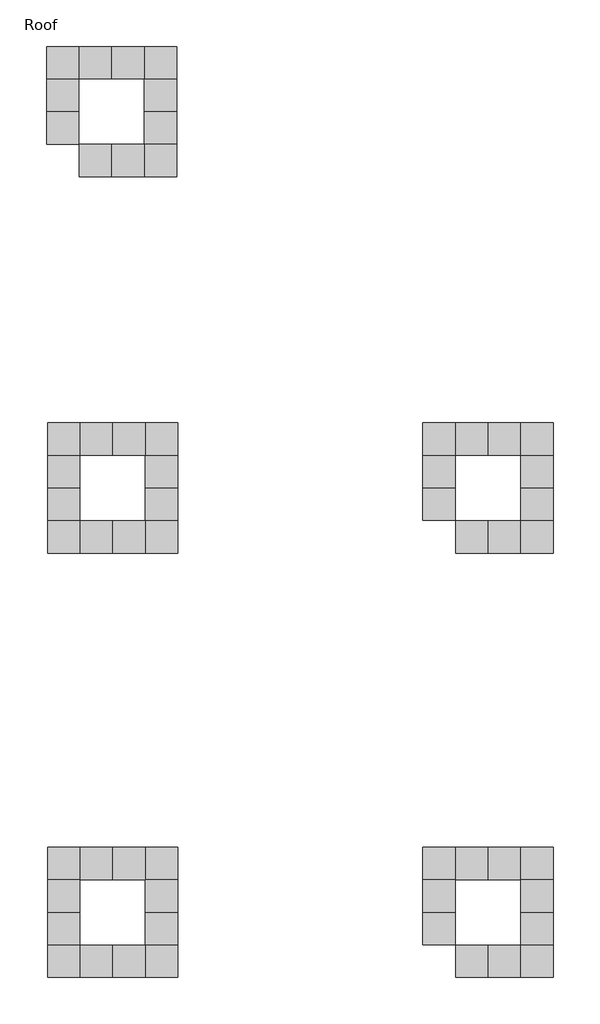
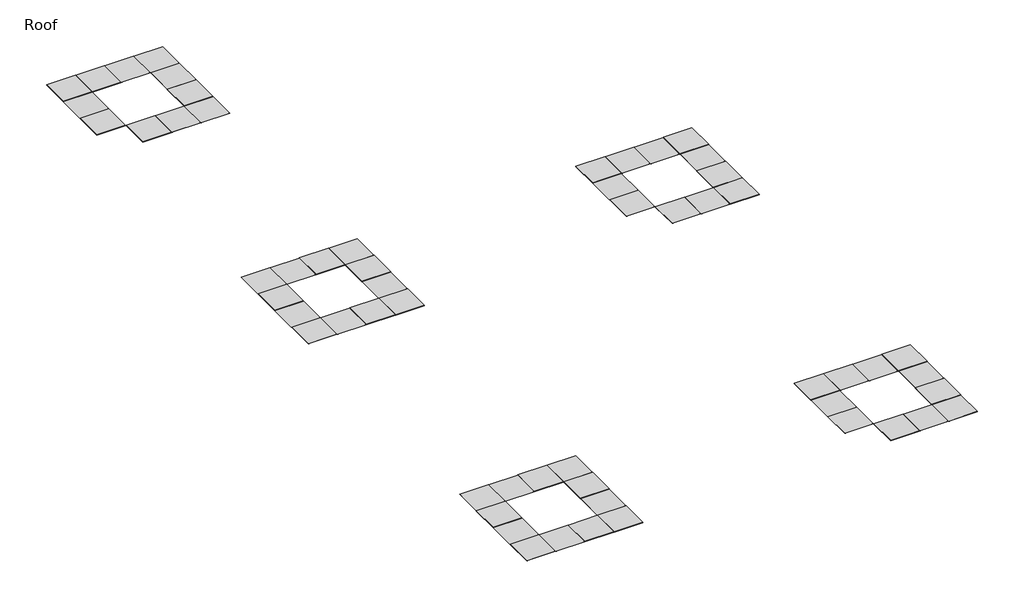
# One storey, incomplete: 57 plates.
"""IFC4 building model written with IfcOpenShell, lengths in millimetres."""

from ifc_helpers import new_model, si_unit, origin, place, context, project, spatial, transform, mapped, element, save
from components import plate_562299b5

model = new_model("IFC4")

# Units and contexts
model_context = context("Model", 3, world=origin())
ifc_project = project(units=[si_unit("LENGTHUNIT", "METRE", prefix="MILLI")], contexts=[model_context])

# Site, building, storey
site = spatial("IfcSite", under=ifc_project)
building = spatial("IfcBuilding", under=site)
storey = spatial("IfcBuildingStorey", under=building, Name="Roof", Elevation=6096.0)

# Plates
placement = place(None, origin())
plate_shape = plate_562299b5(model_context)
element("IfcPlate", 1, ObjectType="Construction_Ceilings_Qwel-Tiles_Flat-Molded-Acoustic-Ceiling-Tiles : Flat Tile (Charcoal Heather)", at=placement, inside=storey, context=model_context, shape_type="MappedRepresentation", body=[
    mapped(plate_shape, transform((-3026.0328018, 9535.9784964, 6096.0), x_axis=(1.0, 0.0, 0.0), y_axis=(0.0, 0.0, -1.0), z_axis=(0.0, 1.0, 0.0))),
])
element("IfcPlate", 2, ObjectType="Construction_Ceilings_Qwel-Tiles_Flat-Molded-Acoustic-Ceiling-Tiles : Flat Tile (Charcoal Heather)", at=placement, inside=storey, context=model_context, shape_type="MappedRepresentation", body=[
    mapped(plate_shape, transform((-2416.4328018, 9535.9784964, 6096.0), x_axis=(1.0, 0.0, 0.0), y_axis=(0.0, 0.0, -1.0), z_axis=(0.0, 1.0, 0.0))),
])
element("IfcPlate", 3, ObjectType="Construction_Ceilings_Qwel-Tiles_Flat-Molded-Acoustic-Ceiling-Tiles : Flat Tile (Charcoal Heather)", at=placement, inside=storey, context=model_context, shape_type="MappedRepresentation", body=[
    mapped(plate_shape, transform((-1806.8328019, 9535.9784964, 6096.0), x_axis=(1.0, 0.0, 0.0), y_axis=(0.0, 0.0, -1.0), z_axis=(0.0, 1.0, 0.0))),
])
element("IfcPlate", 4, ObjectType="Construction_Ceilings_Qwel-Tiles_Flat-Molded-Acoustic-Ceiling-Tiles : Flat Tile (Charcoal Heather)", at=placement, inside=storey, context=model_context, shape_type="MappedRepresentation", body=[
    mapped(plate_shape, transform((-3635.6328019, 10145.5784964, 6096.0), x_axis=(1.0, 0.0, 0.0), y_axis=(0.0, 0.0, -1.0), z_axis=(0.0, 1.0, 0.0))),
])
element("IfcPlate", 5, ObjectType="Construction_Ceilings_Qwel-Tiles_Flat-Molded-Acoustic-Ceiling-Tiles : Flat Tile (Charcoal Heather)", at=placement, inside=storey, context=model_context, shape_type="MappedRepresentation", body=[
    mapped(plate_shape, transform((-1806.8328019, 10145.5784964, 6096.0), x_axis=(1.0, 0.0, 0.0), y_axis=(0.0, 0.0, -1.0), z_axis=(0.0, 1.0, 0.0))),
])
element("IfcPlate", 6, ObjectType="Construction_Ceilings_Qwel-Tiles_Flat-Molded-Acoustic-Ceiling-Tiles : Flat Tile (Charcoal Heather)", at=placement, inside=storey, context=model_context, shape_type="MappedRepresentation", body=[
    mapped(plate_shape, transform((-3635.6328019, 10755.1784964, 6096.0), x_axis=(1.0, 0.0, 0.0), y_axis=(0.0, 0.0, -1.0), z_axis=(0.0, 1.0, 0.0))),
])
element("IfcPlate", 7, ObjectType="Construction_Ceilings_Qwel-Tiles_Flat-Molded-Acoustic-Ceiling-Tiles : Flat Tile (Charcoal Heather)", at=placement, inside=storey, context=model_context, shape_type="MappedRepresentation", body=[
    mapped(plate_shape, transform((-1806.8328019, 10755.1784964, 6096.0), x_axis=(1.0, 0.0, 0.0), y_axis=(0.0, 0.0, -1.0), z_axis=(0.0, 1.0, 0.0))),
])
element("IfcPlate", 8, ObjectType="Construction_Ceilings_Qwel-Tiles_Flat-Molded-Acoustic-Ceiling-Tiles : Flat Tile (Charcoal Heather)", at=placement, inside=storey, context=model_context, shape_type="MappedRepresentation", body=[
    mapped(plate_shape, transform((-3635.6328019, 11364.7784964, 6096.0), x_axis=(1.0, 0.0, 0.0), y_axis=(0.0, 0.0, -1.0), z_axis=(0.0, 1.0, 0.0))),
])
element("IfcPlate", 9, ObjectType="Construction_Ceilings_Qwel-Tiles_Flat-Molded-Acoustic-Ceiling-Tiles : Flat Tile (Charcoal Heather)", at=placement, inside=storey, context=model_context, shape_type="MappedRepresentation", body=[
    mapped(plate_shape, transform((-3026.0328018, 11364.7784964, 6096.0), x_axis=(1.0, 0.0, 0.0), y_axis=(0.0, 0.0, -1.0), z_axis=(0.0, 1.0, 0.0))),
])
element("IfcPlate", 10, ObjectType="Construction_Ceilings_Qwel-Tiles_Flat-Molded-Acoustic-Ceiling-Tiles : Flat Tile (Charcoal Heather)", at=placement, inside=storey, context=model_context, shape_type="MappedRepresentation", body=[
    mapped(plate_shape, transform((-2416.4328018, 11364.7784964, 6096.0), x_axis=(1.0, 0.0, 0.0), y_axis=(0.0, 0.0, -1.0), z_axis=(0.0, 1.0, 0.0))),
])
element("IfcPlate", 11, ObjectType="Construction_Ceilings_Qwel-Tiles_Flat-Molded-Acoustic-Ceiling-Tiles : Flat Tile (Charcoal Heather)", at=placement, inside=storey, context=model_context, shape_type="MappedRepresentation", body=[
    mapped(plate_shape, transform((-1806.8328019, 11364.7784964, 6096.0), x_axis=(1.0, 0.0, 0.0), y_axis=(0.0, 0.0, -1.0), z_axis=(0.0, 1.0, 0.0))),
])
element("IfcPlate", 12, ObjectType="Construction_Ceilings_Qwel-Tiles_Flat-Molded-Acoustic-Ceiling-Tiles : Flat Tile (Light Grey Heather)", at=placement, inside=storey, context=model_context, shape_type="MappedRepresentation", body=[
    mapped(plate_shape, transform((-10646.0328019, 9535.9784964, 6096.0), x_axis=(1.0, 0.0, 0.0), y_axis=(0.0, 0.0, -1.0), z_axis=(0.0, 1.0, 0.0))),
])
element("IfcPlate", 13, ObjectType="Construction_Ceilings_Qwel-Tiles_Flat-Molded-Acoustic-Ceiling-Tiles : Flat Tile (Light Grey Heather)", at=placement, inside=storey, context=model_context, shape_type="MappedRepresentation", body=[
    mapped(plate_shape, transform((-10036.4328018, 9535.9784964, 6096.0), x_axis=(1.0, 0.0, 0.0), y_axis=(0.0, 0.0, -1.0), z_axis=(0.0, 1.0, 0.0))),
])
element("IfcPlate", 14, ObjectType="Construction_Ceilings_Qwel-Tiles_Flat-Molded-Acoustic-Ceiling-Tiles : Flat Tile (Light Grey Heather)", at=placement, inside=storey, context=model_context, shape_type="MappedRepresentation", body=[
    mapped(plate_shape, transform((-9426.8328018, 9535.9784964, 6096.0), x_axis=(1.0, 0.0, 0.0), y_axis=(0.0, 0.0, -1.0), z_axis=(0.0, 1.0, 0.0))),
])
element("IfcPlate", 15, ObjectType="Construction_Ceilings_Qwel-Tiles_Flat-Molded-Acoustic-Ceiling-Tiles : Flat Tile (Light Grey Heather)", at=placement, inside=storey, context=model_context, shape_type="MappedRepresentation", body=[
    mapped(plate_shape, transform((-8817.2328019, 9535.9784964, 6096.0), x_axis=(1.0, 0.0, 0.0), y_axis=(0.0, 0.0, -1.0), z_axis=(0.0, 1.0, 0.0))),
])
element("IfcPlate", 16, ObjectType="Construction_Ceilings_Qwel-Tiles_Flat-Molded-Acoustic-Ceiling-Tiles : Flat Tile (Light Grey Heather)", at=placement, inside=storey, context=model_context, shape_type="MappedRepresentation", body=[
    mapped(plate_shape, transform((-10646.0328019, 10145.5784964, 6096.0), x_axis=(1.0, 0.0, 0.0), y_axis=(0.0, 0.0, -1.0), z_axis=(0.0, 1.0, 0.0))),
])
element("IfcPlate", 17, ObjectType="Construction_Ceilings_Qwel-Tiles_Flat-Molded-Acoustic-Ceiling-Tiles : Flat Tile (Light Grey Heather)", at=placement, inside=storey, context=model_context, shape_type="MappedRepresentation", body=[
    mapped(plate_shape, transform((-8817.2328019, 10145.5784964, 6096.0), x_axis=(1.0, 0.0, 0.0), y_axis=(0.0, 0.0, -1.0), z_axis=(0.0, 1.0, 0.0))),
])
element("IfcPlate", 18, ObjectType="Construction_Ceilings_Qwel-Tiles_Flat-Molded-Acoustic-Ceiling-Tiles : Flat Tile (Light Grey Heather)", at=placement, inside=storey, context=model_context, shape_type="MappedRepresentation", body=[
    mapped(plate_shape, transform((-10646.0328019, 10755.1784964, 6096.0), x_axis=(1.0, 0.0, 0.0), y_axis=(0.0, 0.0, -1.0), z_axis=(0.0, 1.0, 0.0))),
])
element("IfcPlate", 19, ObjectType="Construction_Ceilings_Qwel-Tiles_Flat-Molded-Acoustic-Ceiling-Tiles : Flat Tile (Light Grey Heather)", at=placement, inside=storey, context=model_context, shape_type="MappedRepresentation", body=[
    mapped(plate_shape, transform((-8817.2328019, 10755.1784964, 6096.0), x_axis=(1.0, 0.0, 0.0), y_axis=(0.0, 0.0, -1.0), z_axis=(0.0, 1.0, 0.0))),
])
element("IfcPlate", 20, ObjectType="Construction_Ceilings_Qwel-Tiles_Flat-Molded-Acoustic-Ceiling-Tiles : Flat Tile (Light Grey Heather)", at=placement, inside=storey, context=model_context, shape_type="MappedRepresentation", body=[
    mapped(plate_shape, transform((-10646.0328019, 11364.7784964, 6096.0), x_axis=(1.0, 0.0, 0.0), y_axis=(0.0, 0.0, -1.0), z_axis=(0.0, 1.0, 0.0))),
])
element("IfcPlate", 21, ObjectType="Construction_Ceilings_Qwel-Tiles_Flat-Molded-Acoustic-Ceiling-Tiles : Flat Tile (Light Grey Heather)", at=placement, inside=storey, context=model_context, shape_type="MappedRepresentation", body=[
    mapped(plate_shape, transform((-10036.4328018, 11364.7784964, 6096.0), x_axis=(1.0, 0.0, 0.0), y_axis=(0.0, 0.0, -1.0), z_axis=(0.0, 1.0, 0.0))),
])
element("IfcPlate", 22, ObjectType="Construction_Ceilings_Qwel-Tiles_Flat-Molded-Acoustic-Ceiling-Tiles : Flat Tile (Light Grey Heather)", at=placement, inside=storey, context=model_context, shape_type="MappedRepresentation", body=[
    mapped(plate_shape, transform((-9426.8328018, 11364.7784964, 6096.0), x_axis=(1.0, 0.0, 0.0), y_axis=(0.0, 0.0, -1.0), z_axis=(0.0, 1.0, 0.0))),
])
element("IfcPlate", 23, ObjectType="Construction_Ceilings_Qwel-Tiles_Flat-Molded-Acoustic-Ceiling-Tiles : Flat Tile (Light Grey Heather)", at=placement, inside=storey, context=model_context, shape_type="MappedRepresentation", body=[
    mapped(plate_shape, transform((-8817.2328019, 11364.7784964, 6096.0), x_axis=(1.0, 0.0, 0.0), y_axis=(0.0, 0.0, -1.0), z_axis=(0.0, 1.0, 0.0))),
])
element("IfcPlate", 24, ObjectType="Construction_Ceilings_Qwel-Tiles_Flat-Molded-Acoustic-Ceiling-Tiles : Flat Tile (Sandstone Heather)", at=placement, inside=storey, context=model_context, shape_type="MappedRepresentation", body=[
    mapped(plate_shape, transform((-3026.0328018, 1611.1784964, 6096.0), x_axis=(1.0, 0.0, 0.0), y_axis=(0.0, 0.0, -1.0), z_axis=(0.0, 1.0, 0.0))),
])
element("IfcPlate", 25, ObjectType="Construction_Ceilings_Qwel-Tiles_Flat-Molded-Acoustic-Ceiling-Tiles : Flat Tile (Sandstone Heather)", at=placement, inside=storey, context=model_context, shape_type="MappedRepresentation", body=[
    mapped(plate_shape, transform((-2416.4328018, 1611.1784964, 6096.0), x_axis=(1.0, 0.0, 0.0), y_axis=(0.0, 0.0, -1.0), z_axis=(0.0, 1.0, 0.0))),
])
element("IfcPlate", 26, ObjectType="Construction_Ceilings_Qwel-Tiles_Flat-Molded-Acoustic-Ceiling-Tiles : Flat Tile (Sandstone Heather)", at=placement, inside=storey, context=model_context, shape_type="MappedRepresentation", body=[
    mapped(plate_shape, transform((-1806.8328019, 1611.1784964, 6096.0), x_axis=(1.0, 0.0, 0.0), y_axis=(0.0, 0.0, -1.0), z_axis=(0.0, 1.0, 0.0))),
])
element("IfcPlate", 27, ObjectType="Construction_Ceilings_Qwel-Tiles_Flat-Molded-Acoustic-Ceiling-Tiles : Flat Tile (Sandstone Heather)", at=placement, inside=storey, context=model_context, shape_type="MappedRepresentation", body=[
    mapped(plate_shape, transform((-3635.6328019, 2220.7784964, 6096.0), x_axis=(1.0, 0.0, 0.0), y_axis=(0.0, 0.0, -1.0), z_axis=(0.0, 1.0, 0.0))),
])
element("IfcPlate", 28, ObjectType="Construction_Ceilings_Qwel-Tiles_Flat-Molded-Acoustic-Ceiling-Tiles : Flat Tile (Sandstone Heather)", at=placement, inside=storey, context=model_context, shape_type="MappedRepresentation", body=[
    mapped(plate_shape, transform((-1806.8328019, 2220.7784964, 6096.0), x_axis=(1.0, 0.0, 0.0), y_axis=(0.0, 0.0, -1.0), z_axis=(0.0, 1.0, 0.0))),
])
element("IfcPlate", 29, ObjectType="Construction_Ceilings_Qwel-Tiles_Flat-Molded-Acoustic-Ceiling-Tiles : Flat Tile (Sandstone Heather)", at=placement, inside=storey, context=model_context, shape_type="MappedRepresentation", body=[
    mapped(plate_shape, transform((-3635.6328019, 2830.3784964, 6096.0), x_axis=(1.0, 0.0, 0.0), y_axis=(0.0, 0.0, -1.0), z_axis=(0.0, 1.0, 0.0))),
])
element("IfcPlate", 30, ObjectType="Construction_Ceilings_Qwel-Tiles_Flat-Molded-Acoustic-Ceiling-Tiles : Flat Tile (Sandstone Heather)", at=placement, inside=storey, context=model_context, shape_type="MappedRepresentation", body=[
    mapped(plate_shape, transform((-1806.8328019, 2830.3784964, 6096.0), x_axis=(1.0, 0.0, 0.0), y_axis=(0.0, 0.0, -1.0), z_axis=(0.0, 1.0, 0.0))),
])
element("IfcPlate", 31, ObjectType="Construction_Ceilings_Qwel-Tiles_Flat-Molded-Acoustic-Ceiling-Tiles : Flat Tile (Sandstone Heather)", at=placement, inside=storey, context=model_context, shape_type="MappedRepresentation", body=[
    mapped(plate_shape, transform((-3635.6328019, 3439.9784964, 6096.0), x_axis=(1.0, 0.0, 0.0), y_axis=(0.0, 0.0, -1.0), z_axis=(0.0, 1.0, 0.0))),
])
element("IfcPlate", 32, ObjectType="Construction_Ceilings_Qwel-Tiles_Flat-Molded-Acoustic-Ceiling-Tiles : Flat Tile (Sandstone Heather)", at=placement, inside=storey, context=model_context, shape_type="MappedRepresentation", body=[
    mapped(plate_shape, transform((-3026.0328018, 3439.9784964, 6096.0), x_axis=(1.0, 0.0, 0.0), y_axis=(0.0, 0.0, -1.0), z_axis=(0.0, 1.0, 0.0))),
])
element("IfcPlate", 33, ObjectType="Construction_Ceilings_Qwel-Tiles_Flat-Molded-Acoustic-Ceiling-Tiles : Flat Tile (Sandstone Heather)", at=placement, inside=storey, context=model_context, shape_type="MappedRepresentation", body=[
    mapped(plate_shape, transform((-2416.4328018, 3439.9784964, 6096.0), x_axis=(1.0, 0.0, 0.0), y_axis=(0.0, 0.0, -1.0), z_axis=(0.0, 1.0, 0.0))),
])
element("IfcPlate", 34, ObjectType="Construction_Ceilings_Qwel-Tiles_Flat-Molded-Acoustic-Ceiling-Tiles : Flat Tile (Sandstone Heather)", at=placement, inside=storey, context=model_context, shape_type="MappedRepresentation", body=[
    mapped(plate_shape, transform((-1806.8328019, 3439.9784964, 6096.0), x_axis=(1.0, 0.0, 0.0), y_axis=(0.0, 0.0, -1.0), z_axis=(0.0, 1.0, 0.0))),
])
element("IfcPlate", 35, ObjectType="Construction_Ceilings_Qwel-Tiles_Flat-Molded-Acoustic-Ceiling-Tiles : Flat Tile (Light Brown)", at=placement, inside=storey, context=model_context, shape_type="MappedRepresentation", body=[
    mapped(plate_shape, transform((-10646.0328019, 1611.1784964, 6096.0), x_axis=(1.0, 0.0, 0.0), y_axis=(0.0, 0.0, -1.0), z_axis=(0.0, 1.0, 0.0))),
])
element("IfcPlate", 36, ObjectType="Construction_Ceilings_Qwel-Tiles_Flat-Molded-Acoustic-Ceiling-Tiles : Flat Tile (Light Brown)", at=placement, inside=storey, context=model_context, shape_type="MappedRepresentation", body=[
    mapped(plate_shape, transform((-10036.4328018, 1611.1784964, 6096.0), x_axis=(1.0, 0.0, 0.0), y_axis=(0.0, 0.0, -1.0), z_axis=(0.0, 1.0, 0.0))),
])
element("IfcPlate", 37, ObjectType="Construction_Ceilings_Qwel-Tiles_Flat-Molded-Acoustic-Ceiling-Tiles : Flat Tile (Light Brown)", at=placement, inside=storey, context=model_context, shape_type="MappedRepresentation", body=[
    mapped(plate_shape, transform((-9426.8328018, 1611.1784964, 6096.0), x_axis=(1.0, 0.0, 0.0), y_axis=(0.0, 0.0, -1.0), z_axis=(0.0, 1.0, 0.0))),
])
element("IfcPlate", 38, ObjectType="Construction_Ceilings_Qwel-Tiles_Flat-Molded-Acoustic-Ceiling-Tiles : Flat Tile (Light Brown)", at=placement, inside=storey, context=model_context, shape_type="MappedRepresentation", body=[
    mapped(plate_shape, transform((-8817.2328019, 1611.1784964, 6096.0), x_axis=(1.0, 0.0, 0.0), y_axis=(0.0, 0.0, -1.0), z_axis=(0.0, 1.0, 0.0))),
])
element("IfcPlate", 39, ObjectType="Construction_Ceilings_Qwel-Tiles_Flat-Molded-Acoustic-Ceiling-Tiles : Flat Tile (Light Brown)", at=placement, inside=storey, context=model_context, shape_type="MappedRepresentation", body=[
    mapped(plate_shape, transform((-10646.0328019, 2220.7784964, 6096.0), x_axis=(1.0, 0.0, 0.0), y_axis=(0.0, 0.0, -1.0), z_axis=(0.0, 1.0, 0.0))),
])
element("IfcPlate", 40, ObjectType="Construction_Ceilings_Qwel-Tiles_Flat-Molded-Acoustic-Ceiling-Tiles : Flat Tile (Light Brown)", at=placement, inside=storey, context=model_context, shape_type="MappedRepresentation", body=[
    mapped(plate_shape, transform((-8817.2328019, 2220.7784964, 6096.0), x_axis=(1.0, 0.0, 0.0), y_axis=(0.0, 0.0, -1.0), z_axis=(0.0, 1.0, 0.0))),
])
element("IfcPlate", 41, ObjectType="Construction_Ceilings_Qwel-Tiles_Flat-Molded-Acoustic-Ceiling-Tiles : Flat Tile (Light Brown)", at=placement, inside=storey, context=model_context, shape_type="MappedRepresentation", body=[
    mapped(plate_shape, transform((-10646.0328019, 2830.3784964, 6096.0), x_axis=(1.0, 0.0, 0.0), y_axis=(0.0, 0.0, -1.0), z_axis=(0.0, 1.0, 0.0))),
])
element("IfcPlate", 42, ObjectType="Construction_Ceilings_Qwel-Tiles_Flat-Molded-Acoustic-Ceiling-Tiles : Flat Tile (Light Brown)", at=placement, inside=storey, context=model_context, shape_type="MappedRepresentation", body=[
    mapped(plate_shape, transform((-8817.2328019, 2830.3784964, 6096.0), x_axis=(1.0, 0.0, 0.0), y_axis=(0.0, 0.0, -1.0), z_axis=(0.0, 1.0, 0.0))),
])
element("IfcPlate", 43, ObjectType="Construction_Ceilings_Qwel-Tiles_Flat-Molded-Acoustic-Ceiling-Tiles : Flat Tile (Light Brown)", at=placement, inside=storey, context=model_context, shape_type="MappedRepresentation", body=[
    mapped(plate_shape, transform((-10646.0328019, 3439.9784964, 6096.0), x_axis=(1.0, 0.0, 0.0), y_axis=(0.0, 0.0, -1.0), z_axis=(0.0, 1.0, 0.0))),
])
element("IfcPlate", 44, ObjectType="Construction_Ceilings_Qwel-Tiles_Flat-Molded-Acoustic-Ceiling-Tiles : Flat Tile (Light Brown)", at=placement, inside=storey, context=model_context, shape_type="MappedRepresentation", body=[
    mapped(plate_shape, transform((-10036.4328018, 3439.9784964, 6096.0), x_axis=(1.0, 0.0, 0.0), y_axis=(0.0, 0.0, -1.0), z_axis=(0.0, 1.0, 0.0))),
])
element("IfcPlate", 45, ObjectType="Construction_Ceilings_Qwel-Tiles_Flat-Molded-Acoustic-Ceiling-Tiles : Flat Tile (Light Brown)", at=placement, inside=storey, context=model_context, shape_type="MappedRepresentation", body=[
    mapped(plate_shape, transform((-9426.8328018, 3439.9784964, 6096.0), x_axis=(1.0, 0.0, 0.0), y_axis=(0.0, 0.0, -1.0), z_axis=(0.0, 1.0, 0.0))),
])
element("IfcPlate", 46, ObjectType="Construction_Ceilings_Qwel-Tiles_Flat-Molded-Acoustic-Ceiling-Tiles : Flat Tile (Light Brown)", at=placement, inside=storey, context=model_context, shape_type="MappedRepresentation", body=[
    mapped(plate_shape, transform((-8817.2328019, 3439.9784964, 6096.0), x_axis=(1.0, 0.0, 0.0), y_axis=(0.0, 0.0, -1.0), z_axis=(0.0, 1.0, 0.0))),
])
element("IfcPlate", 47, ObjectType="Construction_Ceilings_Qwel-Tiles_Flat-Molded-Acoustic-Ceiling-Tiles : Flat Tile (Solid Black)", at=placement, inside=storey, context=model_context, shape_type="MappedRepresentation", body=[
    mapped(plate_shape, transform((-10055.4828018, 16565.4284964, 6096.0), x_axis=(1.0, 0.0, 0.0), y_axis=(0.0, 0.0, -1.0), z_axis=(0.0, 1.0, 0.0))),
])
element("IfcPlate", 48, ObjectType="Construction_Ceilings_Qwel-Tiles_Flat-Molded-Acoustic-Ceiling-Tiles : Flat Tile (Solid Black)", at=placement, inside=storey, context=model_context, shape_type="MappedRepresentation", body=[
    mapped(plate_shape, transform((-9445.8828018, 16565.4284964, 6096.0), x_axis=(1.0, 0.0, 0.0), y_axis=(0.0, 0.0, -1.0), z_axis=(0.0, 1.0, 0.0))),
])
element("IfcPlate", 49, ObjectType="Construction_Ceilings_Qwel-Tiles_Flat-Molded-Acoustic-Ceiling-Tiles : Flat Tile (Solid Black)", at=placement, inside=storey, context=model_context, shape_type="MappedRepresentation", body=[
    mapped(plate_shape, transform((-8836.2828019, 16565.4284964, 6096.0), x_axis=(1.0, 0.0, 0.0), y_axis=(0.0, 0.0, -1.0), z_axis=(0.0, 1.0, 0.0))),
])
element("IfcPlate", 50, ObjectType="Construction_Ceilings_Qwel-Tiles_Flat-Molded-Acoustic-Ceiling-Tiles : Flat Tile (Solid Black)", at=placement, inside=storey, context=model_context, shape_type="MappedRepresentation", body=[
    mapped(plate_shape, transform((-10665.0828019, 17175.0284964, 6096.0), x_axis=(1.0, 0.0, 0.0), y_axis=(0.0, 0.0, -1.0), z_axis=(0.0, 1.0, 0.0))),
])
element("IfcPlate", 51, ObjectType="Construction_Ceilings_Qwel-Tiles_Flat-Molded-Acoustic-Ceiling-Tiles : Flat Tile (Solid Black)", at=placement, inside=storey, context=model_context, shape_type="MappedRepresentation", body=[
    mapped(plate_shape, transform((-8836.2828019, 17175.0284964, 6096.0), x_axis=(1.0, 0.0, 0.0), y_axis=(0.0, 0.0, -1.0), z_axis=(0.0, 1.0, 0.0))),
])
element("IfcPlate", 52, ObjectType="Construction_Ceilings_Qwel-Tiles_Flat-Molded-Acoustic-Ceiling-Tiles : Flat Tile (Solid Black)", at=placement, inside=storey, context=model_context, shape_type="MappedRepresentation", body=[
    mapped(plate_shape, transform((-10665.0828019, 17784.6284964, 6096.0), x_axis=(1.0, 0.0, 0.0), y_axis=(0.0, 0.0, -1.0), z_axis=(0.0, 1.0, 0.0))),
])
element("IfcPlate", 53, ObjectType="Construction_Ceilings_Qwel-Tiles_Flat-Molded-Acoustic-Ceiling-Tiles : Flat Tile (Solid Black)", at=placement, inside=storey, context=model_context, shape_type="MappedRepresentation", body=[
    mapped(plate_shape, transform((-8836.2828019, 17784.6284964, 6096.0), x_axis=(1.0, 0.0, 0.0), y_axis=(0.0, 0.0, -1.0), z_axis=(0.0, 1.0, 0.0))),
])
element("IfcPlate", 54, ObjectType="Construction_Ceilings_Qwel-Tiles_Flat-Molded-Acoustic-Ceiling-Tiles : Flat Tile (Solid Black)", at=placement, inside=storey, context=model_context, shape_type="MappedRepresentation", body=[
    mapped(plate_shape, transform((-10665.0828019, 18394.2284964, 6096.0), x_axis=(1.0, 0.0, 0.0), y_axis=(0.0, 0.0, -1.0), z_axis=(0.0, 1.0, 0.0))),
])
element("IfcPlate", 55, ObjectType="Construction_Ceilings_Qwel-Tiles_Flat-Molded-Acoustic-Ceiling-Tiles : Flat Tile (Solid Black)", at=placement, inside=storey, context=model_context, shape_type="MappedRepresentation", body=[
    mapped(plate_shape, transform((-9445.8828018, 18394.2284964, 6096.0), x_axis=(1.0, 0.0, 0.0), y_axis=(0.0, 0.0, -1.0), z_axis=(0.0, 1.0, 0.0))),
])
element("IfcPlate", 56, ObjectType="Construction_Ceilings_Qwel-Tiles_Flat-Molded-Acoustic-Ceiling-Tiles : Flat Tile (Solid Black)", at=placement, inside=storey, context=model_context, shape_type="MappedRepresentation", body=[
    mapped(plate_shape, transform((-10055.4828018, 18394.2284964, 6096.0), x_axis=(1.0, 0.0, 0.0), y_axis=(0.0, 0.0, -1.0), z_axis=(0.0, 1.0, 0.0))),
])
element("IfcPlate", 57, ObjectType="Construction_Ceilings_Qwel-Tiles_Flat-Molded-Acoustic-Ceiling-Tiles : Flat Tile (Solid Black)", at=placement, inside=storey, context=model_context, shape_type="MappedRepresentation", body=[
    mapped(plate_shape, transform((-8836.2828019, 18394.2284964, 6096.0), x_axis=(1.0, 0.0, 0.0), y_axis=(0.0, 0.0, -1.0), z_axis=(0.0, 1.0, 0.0))),
])

save(model, "model.ifc")
